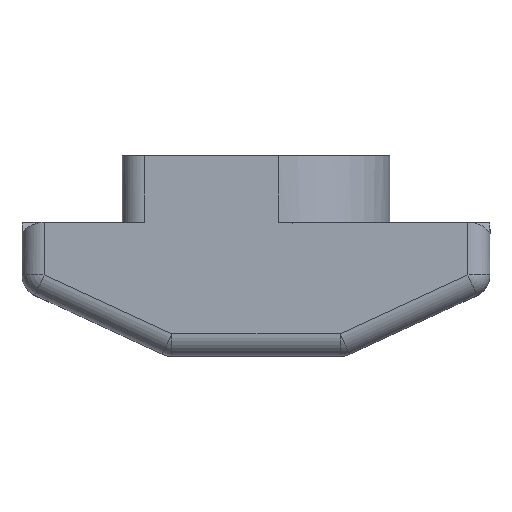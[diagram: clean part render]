
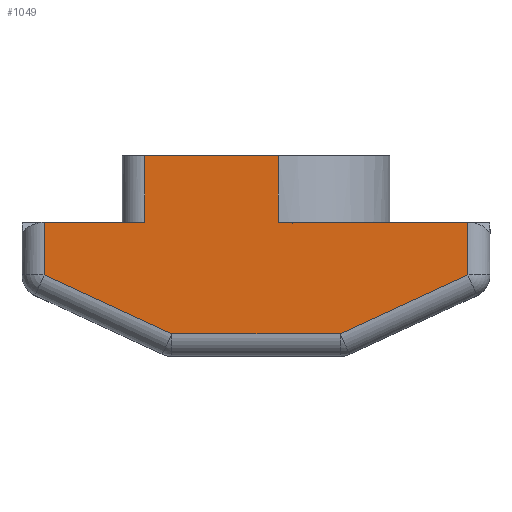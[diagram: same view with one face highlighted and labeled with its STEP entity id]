
A CAD part, top view. The second image highlights one B-rep face of the part: STEP entity #1049.
In plain terms, the highlighted planar face has unit normal (0, 0, 1).
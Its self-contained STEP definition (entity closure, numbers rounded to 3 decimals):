
#39 = VECTOR ( 'NONE', #392, 1000. ) ;
#43 = LINE ( 'NONE', #1352, #4478 ) ;
#98 = VERTEX_POINT ( 'NONE', #3158 ) ;
#196 = VERTEX_POINT ( 'NONE', #4644 ) ;
#214 = ORIENTED_EDGE ( 'NONE', *, *, #3382, .T. ) ;
#254 = VECTOR ( 'NONE', #4077, 1000. ) ;
#367 = VECTOR ( 'NONE', #4526, 1000. ) ;
#376 = CARTESIAN_POINT ( 'NONE',  ( -3., -1.5, 3. ) ) ;
#378 = ORIENTED_EDGE ( 'NONE', *, *, #4411, .T. ) ;
#392 = DIRECTION ( 'NONE',  ( -1., 0., 0. ) ) ;
#507 = EDGE_LOOP ( 'NONE', ( #4587, #1883, #1191, #3373, #3570, #3904, #1948, #214, #3433, #378 ) ) ;
#559 = CARTESIAN_POINT ( 'NONE',  ( -2.5, 0., 3. ) ) ;
#675 = EDGE_CURVE ( 'NONE', #98, #2691, #3346, .T. ) ;
#807 = CARTESIAN_POINT ( 'NONE',  ( 0.5, 0., 3. ) ) ;
#888 = CARTESIAN_POINT ( 'NONE',  ( -4.75, -1.5, 3. ) ) ;
#951 = DIRECTION ( 'NONE',  ( -1., 0., 0. ) ) ;
#976 = VECTOR ( 'NONE', #1801, 1000. ) ;
#1049 = ADVANCED_FACE ( 'NONE', ( #2569 ), #2916, .F. ) ;
#1135 = DIRECTION ( 'NONE',  ( -1., 0., 0. ) ) ;
#1191 = ORIENTED_EDGE ( 'NONE', *, *, #4374, .T. ) ;
#1195 = LINE ( 'NONE', #3411, #1598 ) ;
#1203 = LINE ( 'NONE', #1552, #254 ) ;
#1252 = CARTESIAN_POINT ( 'NONE',  ( 3., -1.5, 3. ) ) ;
#1352 = CARTESIAN_POINT ( 'NONE',  ( 0.5, 0., 3. ) ) ;
#1537 = VECTOR ( 'NONE', #2938, 1000. ) ;
#1538 = LINE ( 'NONE', #376, #39 ) ;
#1544 = VECTOR ( 'NONE', #2319, 1000. ) ;
#1552 = CARTESIAN_POINT ( 'NONE',  ( -1.854, -4.017, 3. ) ) ;
#1580 = VERTEX_POINT ( 'NONE', #3224 ) ;
#1598 = VECTOR ( 'NONE', #2298, 1000. ) ;
#1718 = LINE ( 'NONE', #1858, #1537 ) ;
#1739 = CARTESIAN_POINT ( 'NONE',  ( 1.854, -4.017, 3. ) ) ;
#1743 = EDGE_CURVE ( 'NONE', #1580, #196, #1203, .T. ) ;
#1801 = DIRECTION ( 'NONE',  ( 0.908, 0.419, 0. ) ) ;
#1804 = VERTEX_POINT ( 'NONE', #3379 ) ;
#1831 = LINE ( 'NONE', #1739, #976 ) ;
#1858 = CARTESIAN_POINT ( 'NONE',  ( -4.75, 0., 3. ) ) ;
#1867 = VERTEX_POINT ( 'NONE', #888 ) ;
#1883 = ORIENTED_EDGE ( 'NONE', *, *, #1743, .T. ) ;
#1905 = EDGE_CURVE ( 'NONE', #1804, #98, #2256, .T. ) ;
#1948 = ORIENTED_EDGE ( 'NONE', *, *, #4072, .T. ) ;
#1987 = VERTEX_POINT ( 'NONE', #3114 ) ;
#2096 = EDGE_CURVE ( 'NONE', #1987, #1804, #1831, .T. ) ;
#2218 = EDGE_CURVE ( 'NONE', #1867, #1580, #1718, .T. ) ;
#2256 = LINE ( 'NONE', #2337, #1544 ) ;
#2298 = DIRECTION ( 'NONE',  ( 0., -1., 0. ) ) ;
#2319 = DIRECTION ( 'NONE',  ( 0., 1., 0. ) ) ;
#2337 = CARTESIAN_POINT ( 'NONE',  ( 4.75, 0., 3. ) ) ;
#2532 = CARTESIAN_POINT ( 'NONE',  ( 0., -4., 3. ) ) ;
#2569 = FACE_OUTER_BOUND ( 'NONE', #507, .T. ) ;
#2691 = VERTEX_POINT ( 'NONE', #3436 ) ;
#2713 = LINE ( 'NONE', #2532, #3502 ) ;
#2728 = EDGE_CURVE ( 'NONE', #3160, #3752, #1195, .T. ) ;
#2792 = AXIS2_PLACEMENT_3D ( 'NONE', #2887, #2928, #1135 ) ;
#2887 = CARTESIAN_POINT ( 'NONE',  ( 0., 0., 3. ) ) ;
#2916 = PLANE ( 'NONE',  #2792 ) ;
#2928 = DIRECTION ( 'NONE',  ( 0., 0., -1. ) ) ;
#2938 = DIRECTION ( 'NONE',  ( 0., -1., 0. ) ) ;
#2953 = VECTOR ( 'NONE', #951, 1000. ) ;
#3114 = CARTESIAN_POINT ( 'NONE',  ( 1.89, -4., 3. ) ) ;
#3158 = CARTESIAN_POINT ( 'NONE',  ( 4.75, -1.5, 3. ) ) ;
#3160 = VERTEX_POINT ( 'NONE', #559 ) ;
#3224 = CARTESIAN_POINT ( 'NONE',  ( -4.75, -2.68, 3. ) ) ;
#3346 = LINE ( 'NONE', #1252, #367 ) ;
#3373 = ORIENTED_EDGE ( 'NONE', *, *, #2096, .T. ) ;
#3379 = CARTESIAN_POINT ( 'NONE',  ( 4.75, -2.68, 3. ) ) ;
#3382 = EDGE_CURVE ( 'NONE', #4515, #3160, #3564, .T. ) ;
#3411 = CARTESIAN_POINT ( 'NONE',  ( -2.5, 0., 3. ) ) ;
#3433 = ORIENTED_EDGE ( 'NONE', *, *, #2728, .T. ) ;
#3436 = CARTESIAN_POINT ( 'NONE',  ( 0.5, -1.5, 3. ) ) ;
#3502 = VECTOR ( 'NONE', #4390, 1000. ) ;
#3564 = LINE ( 'NONE', #4129, #2953 ) ;
#3570 = ORIENTED_EDGE ( 'NONE', *, *, #1905, .T. ) ;
#3752 = VERTEX_POINT ( 'NONE', #4364 ) ;
#3856 = DIRECTION ( 'NONE',  ( 0., 1., 0. ) ) ;
#3904 = ORIENTED_EDGE ( 'NONE', *, *, #675, .T. ) ;
#4072 = EDGE_CURVE ( 'NONE', #2691, #4515, #43, .T. ) ;
#4077 = DIRECTION ( 'NONE',  ( 0.908, -0.419, 0. ) ) ;
#4129 = CARTESIAN_POINT ( 'NONE',  ( 3., 0., 3. ) ) ;
#4364 = CARTESIAN_POINT ( 'NONE',  ( -2.5, -1.5, 3. ) ) ;
#4374 = EDGE_CURVE ( 'NONE', #196, #1987, #2713, .T. ) ;
#4390 = DIRECTION ( 'NONE',  ( 1., 0., 0. ) ) ;
#4411 = EDGE_CURVE ( 'NONE', #3752, #1867, #1538, .T. ) ;
#4478 = VECTOR ( 'NONE', #3856, 1000. ) ;
#4515 = VERTEX_POINT ( 'NONE', #807 ) ;
#4526 = DIRECTION ( 'NONE',  ( -1., 0., 0. ) ) ;
#4587 = ORIENTED_EDGE ( 'NONE', *, *, #2218, .T. ) ;
#4644 = CARTESIAN_POINT ( 'NONE',  ( -1.89, -4., 3. ) ) ;
